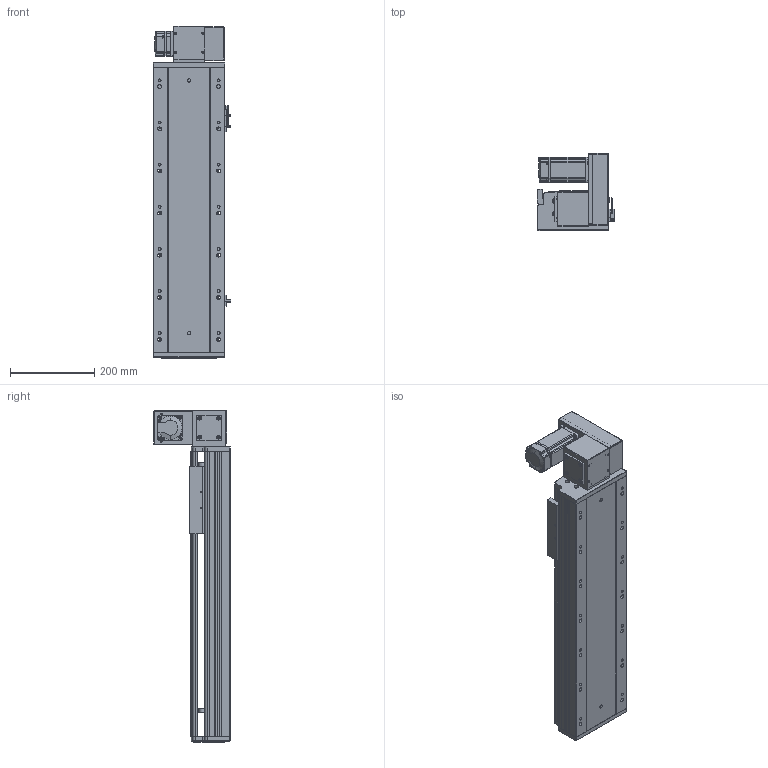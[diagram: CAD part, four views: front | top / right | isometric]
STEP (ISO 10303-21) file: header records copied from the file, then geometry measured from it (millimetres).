
FILE_DESCRIPTION (( 'STEP AP203' ), '1' );
FILE_NAME ('RY170-T-300-UR-P400W.SLDASM_400.step', '2021-03-01T09:26:55', ( '盈信电脑' ), ( '东莞市道滘镇水果街19号' ), 'SwSTEP 2.0', 'SolidWorks 2012', '' );
FILE_SCHEMA (( 'CONFIG_CONTROL_DESIGN' ));
Products named in the file (18): 15; RY170-T-300-UR-P400W.SLDASM_400; 滅袉蝶18-10; RY170-T蹟翐M4; RY170-T肮祭謫裔啣; RY120-T主同步轮轴承压盖; RY170肮祭謫萇儂欶; RY170-T肮祭湍揤踡輸2; RY170-T肮祭湍揤踡輸1; RY170外置感应片(200共用）; RY170同步轮电机安装板(400W); RY170肮祭謫ヶ裔啣; RY170翋肮祭謫釱; RY170肮祭湍臏賑輸; RY170綴裔啣; 覜茼ん672; RY170-T-300肮祭謫倰第裔啣-DR_400; RY170-T-300肮祭謫倰第菁釱-DR_400
Assembly tree (22 placements, depth 2):
  RY170-T-300-UR-P400W.SLDASM_400
    RY170-T-300肮祭謫倰第菁釱-DR_400
    RY170肮祭湍臏賑輸
    RY170-T-300肮祭謫倰第裔啣-DR_400
    RY170綴裔啣
    覜茼ん672  x3
    RY170外置感应片(200共用）
    RY170肮祭謫ヶ裔啣
    RY170翋肮祭謫釱
    RY170同步轮电机安装板(400W)
    RY170肮祭謫萇儂欶
    RY170-T肮祭湍揤踡輸1  x2
    RY170-T肮祭湍揤踡輸2  x2
    RY120-T主同步轮轴承压盖
    RY170-T肮祭謫裔啣
    RY170-T蹟翐M4
    滅袉蝶18-10  x2
    15
Bounding box: 183.7 x 182 x 788 mm (x, y, z)
Volume: 4404595.6 mm3; surface area: 1460900 mm2
Topology: 22 solids, 22 shells, 2664 faces, 7394 edges, 4771 vertices
Faces by surface type: plane 1260, cylinder 1174, cone 200, bspline 30
Entity records: 79232 total; most frequent: CARTESIAN_POINT 17566, ORIENTED_EDGE 12568, DIRECTION 12338, EDGE_CURVE 6284, AXIS2_PLACEMENT_3D 4313, VERTEX_POINT 4127, LINE 3712, VECTOR 3712
